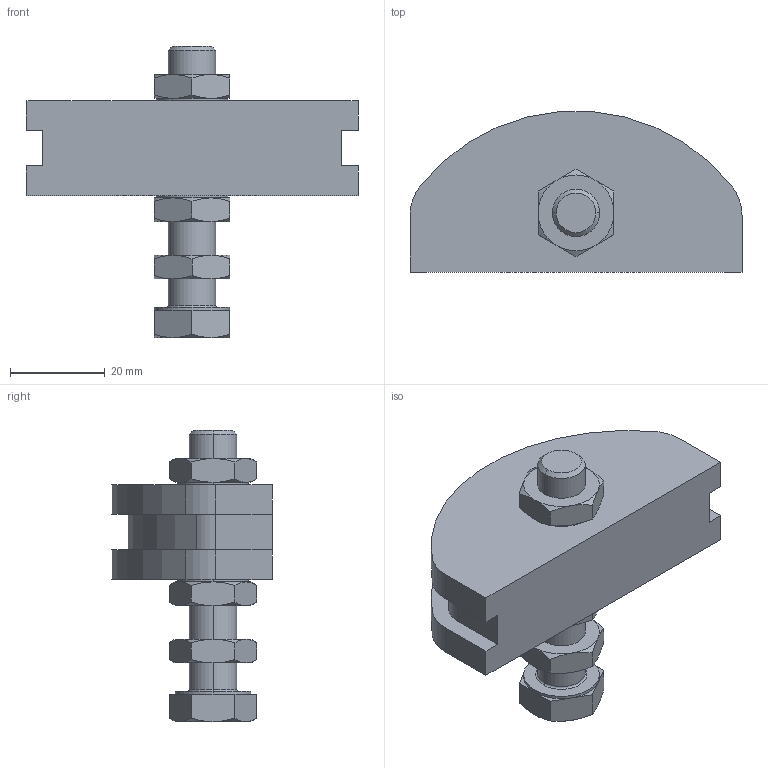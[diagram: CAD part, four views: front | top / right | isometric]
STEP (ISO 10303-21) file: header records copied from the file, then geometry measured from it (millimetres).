
FILE_DESCRIPTION (( 'STEP AP203' ), '1' );
FILE_NAME ('GE 1-2D M10 cod. 94091202.STEP', '2017-08-01T12:32:18', ( '' ), ( '' ), 'SwSTEP 2.0', 'SolidWorks 2016', '' );
FILE_SCHEMA (( 'CONFIG_CONTROL_DESIGN' ));
Length unit declared in the file: millimetre
Products named in the file (5): ISO 4017 - M10 x 55-C_ISO 4017 - M10 x 55-C; DS 10-15-20; GE-P ISO 08B-2; GE 1-2D M10 cod. 94091202; ISO - 4035 - M10 - N_ISO - 4035 - M10 - N
Assembly tree (6 placements, depth 2):
  GE 1-2D M10 cod. 94091202
    GE-P ISO 08B-2
    DS 10-15-20
    ISO 4017 - M10 x 55-C_ISO 4017 - M10 x 55-C
    ISO - 4035 - M10 - N_ISO - 4035 - M10 - N  x3
Bounding box: 70 x 33.86 x 61.4 mm (x, y, z)
Volume: 43550 mm3; surface area: 15278.6 mm2
Topology: 6 solids, 6 shells, 141 faces, 312 edges, 184 vertices
Faces by surface type: cone 56, plane 52, cylinder 31, torus 2
Entity records: 3089 total; most frequent: CARTESIAN_POINT 610, DIRECTION 420, ORIENTED_EDGE 384, EDGE_CURVE 192, AXIS2_PLACEMENT_3D 170, VERTEX_POINT 116, EDGE_LOOP 92, ADVANCED_FACE 85
